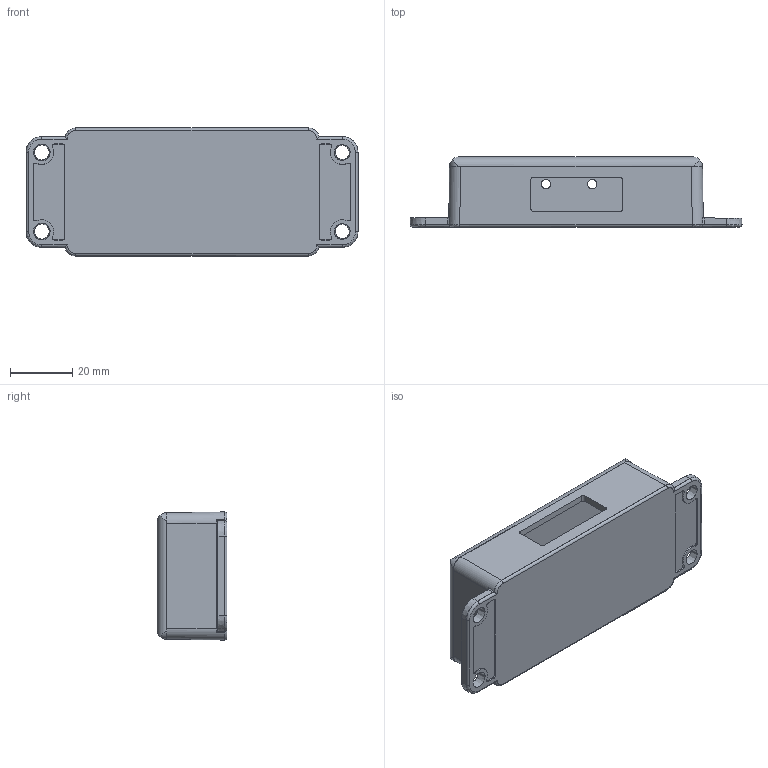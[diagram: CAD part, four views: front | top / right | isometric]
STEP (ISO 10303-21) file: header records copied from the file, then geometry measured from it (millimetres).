
FILE_DESCRIPTION (( 'STEP AP203' ), '1' );
FILE_NAME ('ai1000.STEP', '2020-11-09T08:31:01', ( '' ), ( '' ), 'SwSTEP 2.0', 'SolidWorks 2016', '' );
FILE_SCHEMA (( 'CONFIG_CONTROL_DESIGN' ));
Length unit declared in the file: inch
Products named in the file (3): ai1000; 610-02357 AI-1000 Enclosure; ai1000-enclosure-lid
Assembly tree (2 placements, depth 2):
  ai1000
    610-02357 AI-1000 Enclosure
    ai1000-enclosure-lid
Bounding box: 106.66 x 22.48 x 41.16 mm (x, y, z)
Volume: 28387.7 mm3; surface area: 24369 mm2
Topology: 2 solids, 2 shells, 1295 faces, 3591 edges, 2364 vertices
Faces by surface type: plane 1082, bspline 95, cylinder 86, cone 32
Entity records: 46409 total; most frequent: CARTESIAN_POINT 13748, ORIENTED_EDGE 7166, DIRECTION 5931, EDGE_CURVE 3583, LINE 3135, VECTOR 3135, VERTEX_POINT 2364, AXIS2_PLACEMENT_3D 1398
